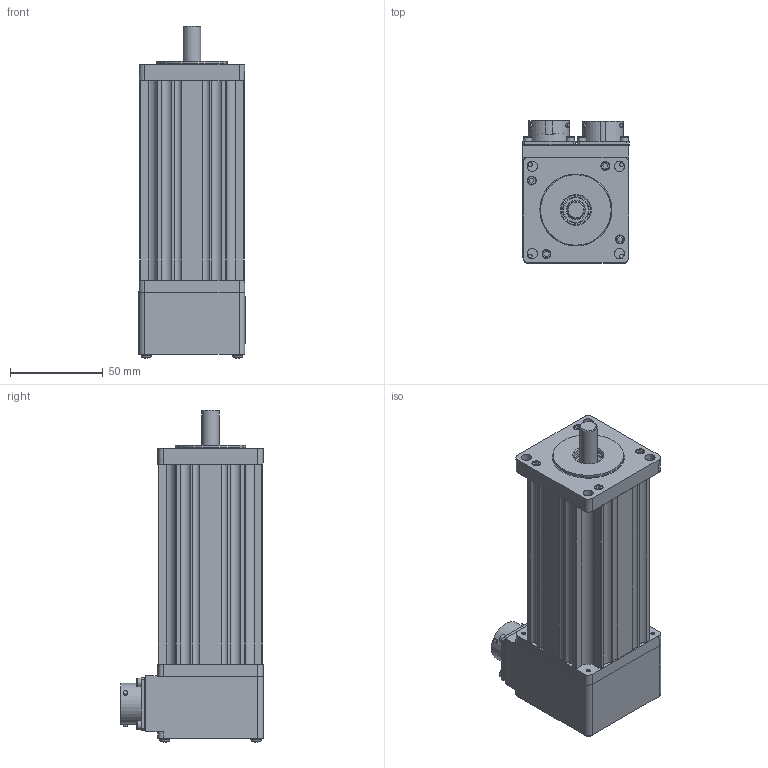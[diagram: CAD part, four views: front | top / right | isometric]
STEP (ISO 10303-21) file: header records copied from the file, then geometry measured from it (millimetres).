
FILE_DESCRIPTION((''),'2;1');
FILE_NAME('Z:\Working Folders\Motor Library\STEPS\SM232XX-NMSB.stp','2008-03-05T22:45:32',('dba4318'),(''),'Autodesk Inventor 11','Autodesk Inventor 11','');
FILE_SCHEMA(('AUTOMOTIVE_DESIGN { 1 0 10303 214 1 1 1 1 }'));
Length unit declared in the file: inch
Products named in the file (1): SM232XX-NMSB
Bounding box: 57.71 x 77.06 x 179.38 mm (x, y, z)
Volume: 338718.9 mm3; surface area: 154793.7 mm2
Topology: 38 solids, 38 shells, 2208 faces, 5709 edges, 3700 vertices
Faces by surface type: plane 1318, cylinder 423, bspline 299, cone 111, torus 41, sphere 16
Full cylindrical faces by diameter (mm): 1.016 x16, 1.041 x8, 1.067 x18, 1.575 x16, 1.6 x36, 2.083 x3, 2.108 x3, 2.184 x4, 2.5 x8, 2.667 x4, 2.845 x14, 4.242 x4, 4.5 x8, 4.648 x10, 5.563 x4, 8.941 x3, 9.525 x7, 9.576 x1, 13.335 x3, 14.224 x1, 14.605 x1, 15.875 x1, 16.053 x1, 16.764 x1, 18.415 x4, 20.803 x1, 20.904 x1, 22.149 x1, 22.225 x3, 22.228 x1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
Entity records: 69247 total; most frequent: CARTESIAN_POINT 19565, ORIENTED_EDGE 10162, DIRECTION 9574, EDGE_CURVE 5081, VERTEX_POINT 3481, AXIS2_PLACEMENT_3D 3307, VECTOR 2960, LINE 2960
